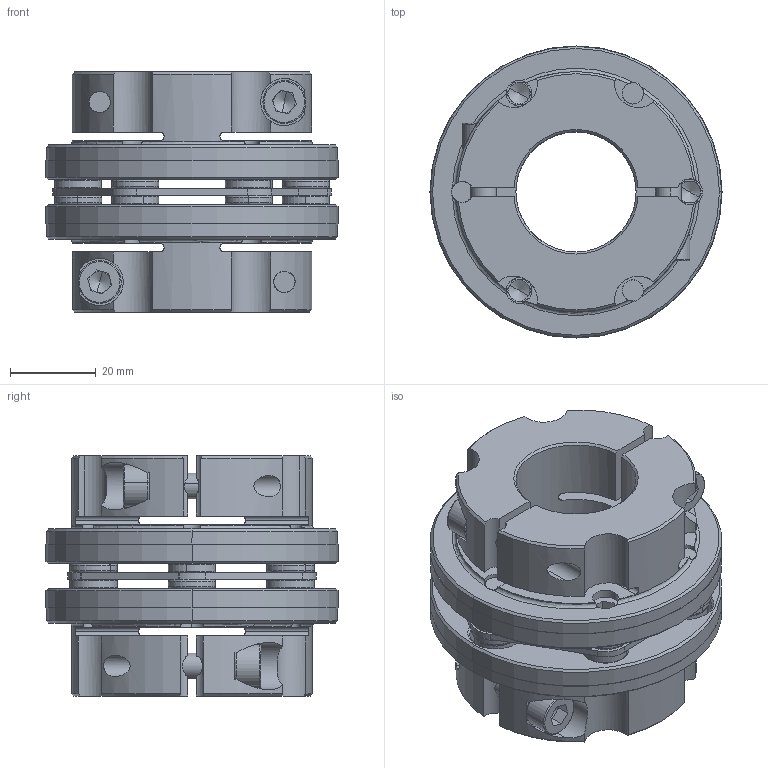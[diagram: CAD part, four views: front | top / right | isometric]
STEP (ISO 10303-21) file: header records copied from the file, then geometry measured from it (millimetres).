
FILE_DESCRIPTION (( 'STEP AP203' ), '1' );
FILE_NAME ('SCDS-68C-TYPE3(28X28).STEP', '2021-12-27T01:14:16', ( '' ), ( '' ), 'SwSTEP 2.0', 'SolidWorks 2021', '' );
FILE_SCHEMA (( 'CONFIG_CONTROL_DESIGN' ));
Length unit declared in the file: millimetre
Products named in the file (1): SCDS-68C-TYPE3(28X28)
Bounding box: 68 x 68 x 55.9 mm (x, y, z)
Volume: 99248.2 mm3; surface area: 42328.1 mm2
Topology: 1 solids, 19 shells, 769 faces, 1927 edges, 1188 vertices
Faces by surface type: cylinder 283, plane 216, cone 150, torus 120
Entity records: 24220 total; most frequent: CARTESIAN_POINT 5201, DIRECTION 4325, ORIENTED_EDGE 3814, EDGE_CURVE 1907, AXIS2_PLACEMENT_3D 1804, VERTEX_POINT 1188, CIRCLE 1034, EDGE_LOOP 851
